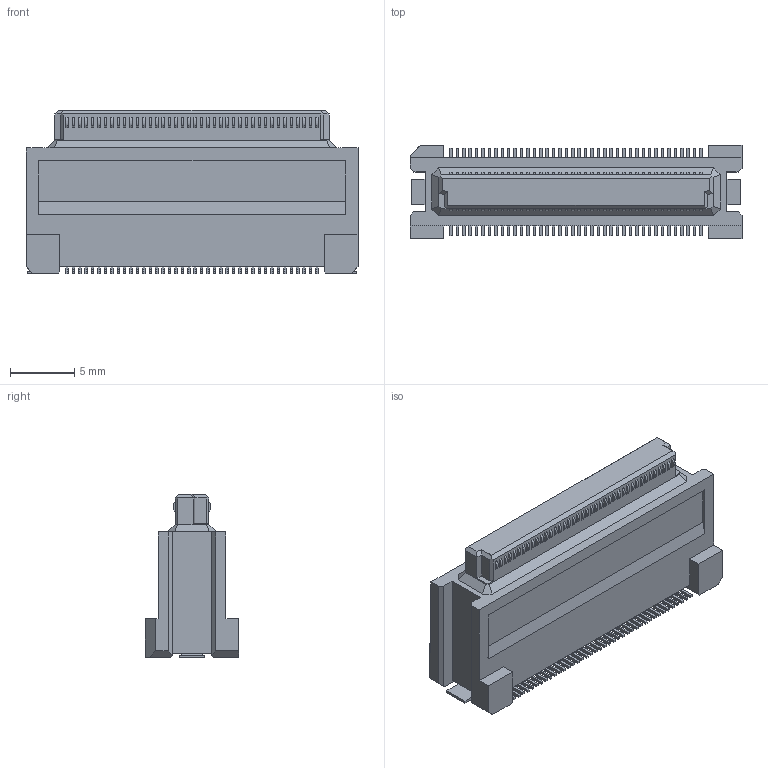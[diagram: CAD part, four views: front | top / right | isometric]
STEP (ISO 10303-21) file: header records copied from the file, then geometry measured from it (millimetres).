
FILE_DESCRIPTION(('Creo Elements/Direct Modeling STEP Export'),'2;1');
FILE_NAME('DY10-080FS-4.stp','2017-11-27T16:48:45',(''),(''),'Creo Elements/Direct Modeling STEP processor for AP214 (Solid Model)','Creo Elements/Direct Modeling 19.0F 14-Feb-2017 (C) Parametric Technology GmbH','');
FILE_SCHEMA(('AUTOMOTIVE_DESIGN { 1 0 10303 214 1 1 1 1 }'));
Length unit declared in the file: millimetre
Products named in the file (2): DY10-080FS-4
Assembly tree (1 placements, depth 2):
  DY10-080FS-4
    DY10-080FS-4
Bounding box: 25.9 x 7.3 x 12.73 mm (x, y, z)
Volume: 1313 mm3; surface area: 1226.6 mm2
Topology: 1 solids, 1 shells, 1190 faces, 3273 edges, 2170 vertices
Faces by surface type: plane 856, cylinder 326, bspline 8
Entity records: 38093 total; most frequent: CARTESIAN_POINT 7784, ORIENTED_EDGE 6546, DIRECTION 5951, EDGE_CURVE 3273, VECTOR 2597, LINE 2597, VERTEX_POINT 2170, AXIS2_PLACEMENT_3D 1677
